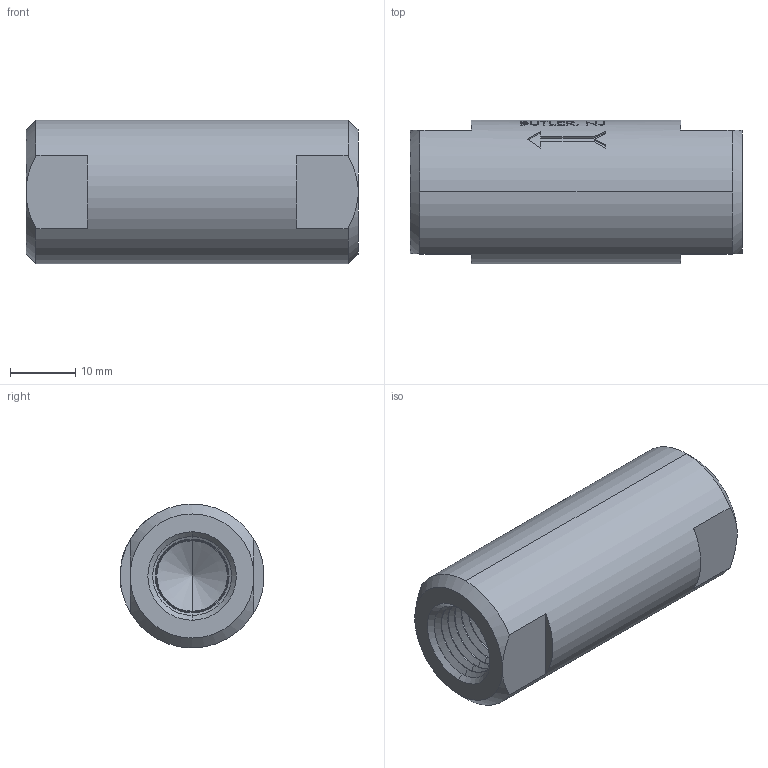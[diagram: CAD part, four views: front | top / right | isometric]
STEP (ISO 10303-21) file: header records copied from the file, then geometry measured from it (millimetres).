
FILE_DESCRIPTION (( 'STEP AP203' ), '1' );
FILE_NAME ('HPCV-4F.STEP', '2019-07-23T16:14:49', ( '' ), ( '' ), 'SwSTEP 2.0', 'SolidWorks 2011', '' );
FILE_SCHEMA (( 'CONFIG_CONTROL_DESIGN' ));
Length unit declared in the file: inch
Products named in the file (2): HPCV-4F; Part1^HPCV-4FPH-T_CM
Assembly tree (1 placements, depth 2):
  HPCV-4F
    Part1^HPCV-4FPH-T_CM
Bounding box: 50.8 x 21.99 x 22.02 mm (x, y, z)
Volume: 15865.2 mm3; surface area: 5767.6 mm2
Topology: 1 solids, 1 shells, 367 faces, 916 edges, 572 vertices
Faces by surface type: plane 140, cone 132, bspline 70, cylinder 25
Entity records: 16796 total; most frequent: CARTESIAN_POINT 8151, ORIENTED_EDGE 1824, DIRECTION 1648, EDGE_CURVE 912, AXIS2_PLACEMENT_3D 581, VERTEX_POINT 572, LINE 486, VECTOR 486
